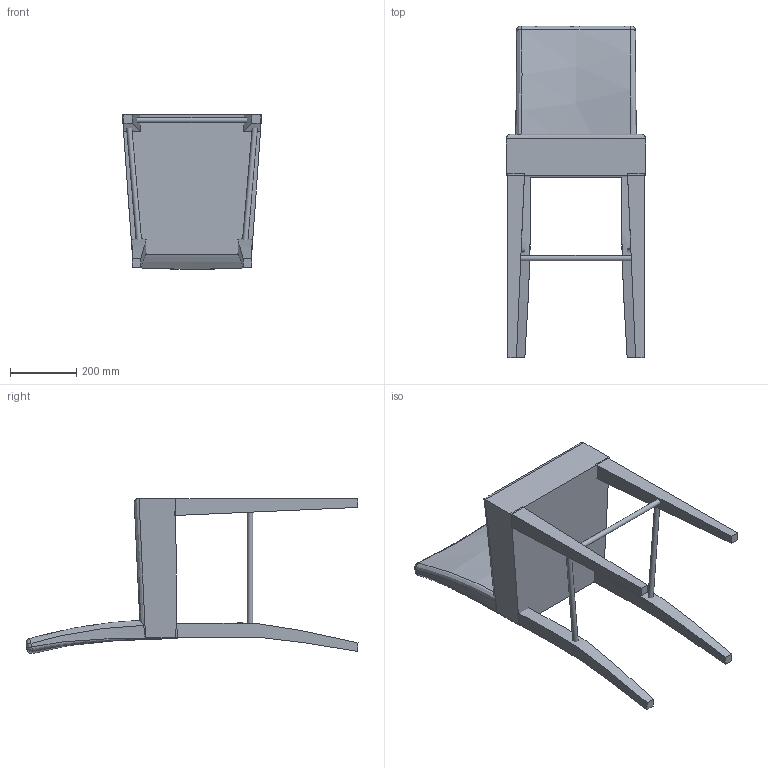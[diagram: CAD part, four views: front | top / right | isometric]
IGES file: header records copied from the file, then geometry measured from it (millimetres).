
Global section: file name: VincentSheppard_Edwardcounterstool; native system: unknown; preprocessor: unknown; author: ict@vincentsheppard.com; organization: unknown; date: 20180516.164536; units: millimetre
Bounding box: 420 x 1000.87 x 467.48 mm (x, y, z)
Volume: 28265447.3 mm3; surface area: 1185968.3 mm2
Topology: 8 solids, 8 shells, 60 faces, 128 edges, 80 vertices
Faces by surface type: bspline 60
